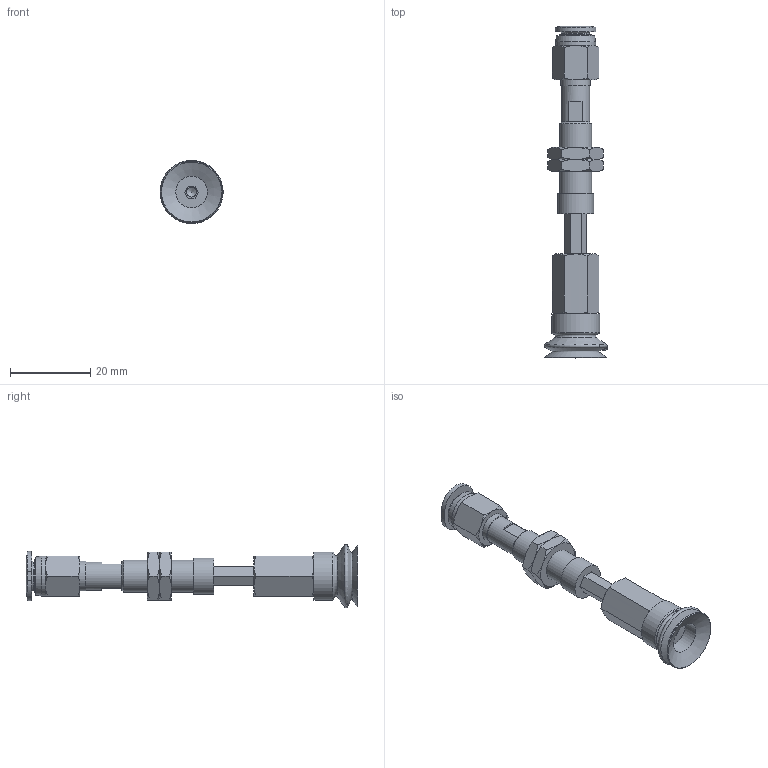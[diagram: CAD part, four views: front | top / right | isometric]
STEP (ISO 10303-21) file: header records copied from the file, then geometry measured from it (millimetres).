
FILE_DESCRIPTION(('STEP AP203'),'1');
FILE_NAME('-O.stp','2025-08-27T06:51:32',(' '),(' '),'Spatial InterOp 3D',' ',' ');
FILE_SCHEMA(('CONFIG_CONTROL_DESIGN'));
Length unit declared in the file: millimetre
Products named in the file (8): BNABPJTH-15-10-※-O; ADAPTER; NAPCTH-10-10-MBODY; Adapter-15-NAPJ; NAPJH-15-10-NUT; NAPJTH-15-10-FBODY; BPJG-15-※; PC-C_06-M5
Assembly tree (8 placements, depth 2):
  BNABPJTH-15-10-※-O
    ADAPTER
    NAPCTH-10-10-MBODY
    Adapter-15-NAPJ
    NAPJH-15-10-NUT  x2
    NAPJTH-15-10-FBODY
    BPJG-15-※
    PC-C_06-M5
Bounding box: 15.99 x 82.98 x 15.78 mm (x, y, z)
Volume: 4388.2 mm3; surface area: 5922.7 mm2
Topology: 7 solids, 10 shells, 198 faces, 422 edges, 253 vertices
Faces by surface type: plane 79, cone 69, cylinder 22, torus 11, bspline 10, sphere 4, revolution 3
Full cylindrical faces by diameter (mm): 2.5 x1, 4 x2, 4.134 x2, 4.6 x1, 5 x2, 7 x2, 7.188 x2, 7.4 x1, 7.9 x1, 8 x2, 8.2 x1, 9 x1, 10 x1, 12 x1
Entity records: 5454 total; most frequent: CARTESIAN_POINT 1669, DIRECTION 699, ORIENTED_EDGE 626, EDGE_CURVE 315, AXIS2_PLACEMENT_3D 297, EDGE_LOOP 243, VERTEX_POINT 215, FACE_OUTER_BOUND 143
